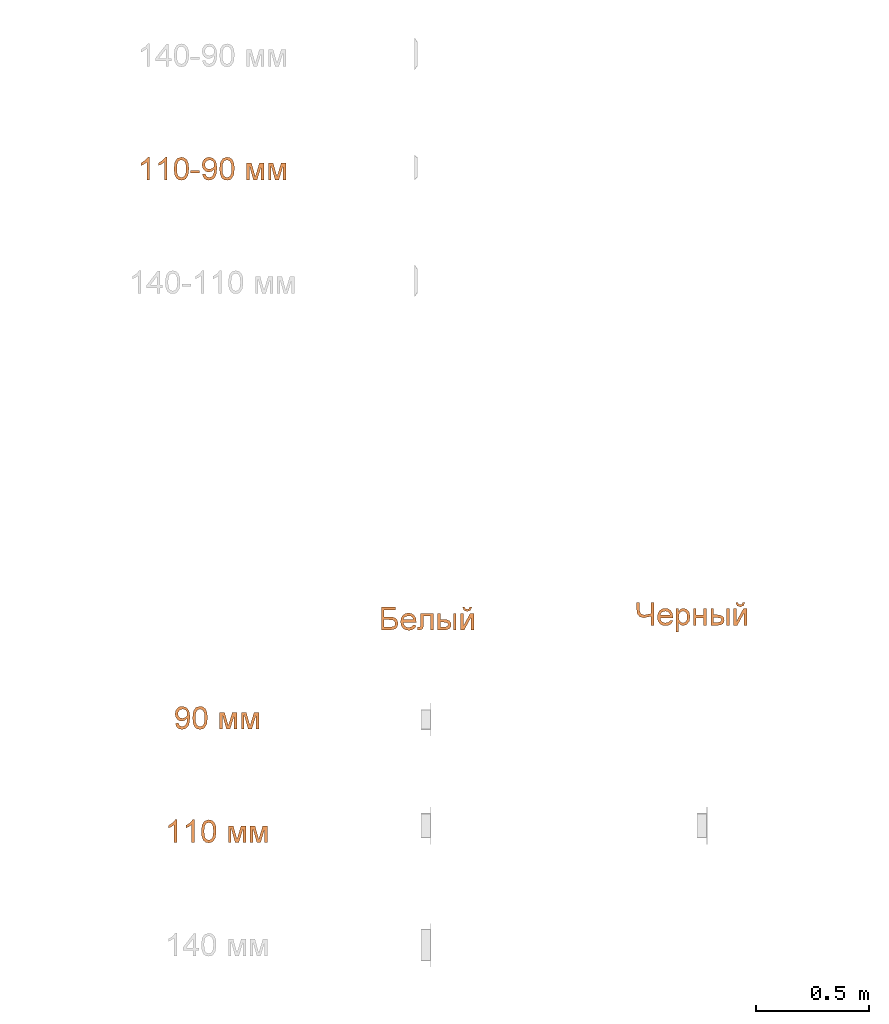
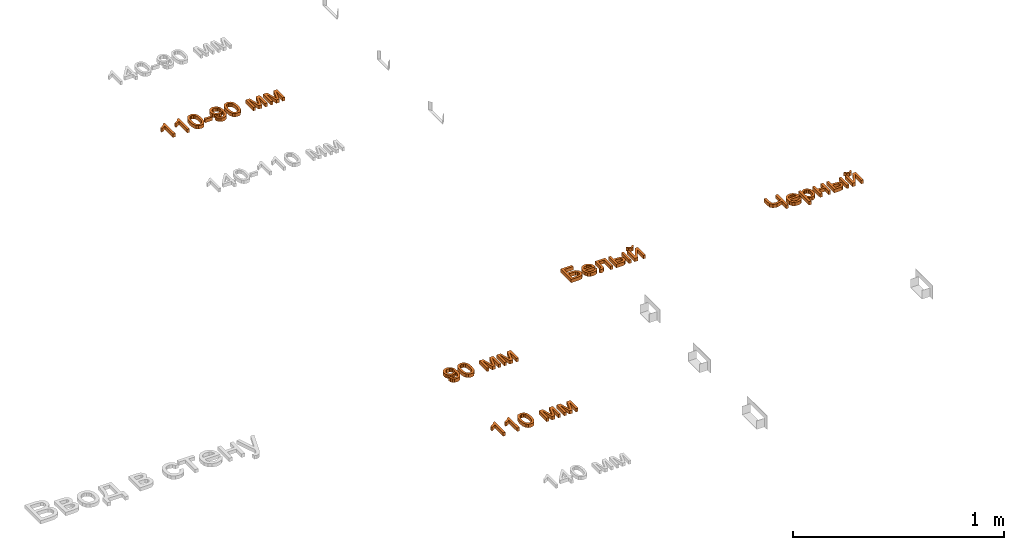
# One storey, part 34 of 87: 5 proxies.
"""IFC2X3 building model written with IfcOpenShell, lengths in millimetres."""

import ifcopenshell
import ifcopenshell.guid

model = None  # the IFC model being written
_history = None  # IfcOwnerHistory: only IFC2X3 demands one
_inside = {}  # id of a spatial element -> (the spatial element, [elements in it])
_under = {}  # id of a project, library or spatial element -> (it, [spatial elements below it])
_declared = {}  # id of a project -> (the project, [libraries it declares])
_typed = {}  # id of a type object -> (the type object, [elements of that type])
_made_of = {}  # id of a material, layer set ... -> (it, [elements and type objects made of it])


def new_model(schema):
    """Start an empty IFC model of exactly this schema.

    Asked for "IFC4X3", IfcOpenShell would pick the latest addendum, in which some entities
    have other attributes; the version numbers below select the first issue.
    IFC2X3 requires an IfcOwnerHistory on every rooted entity: one is made here for all.
    """
    global model, _history
    if schema == "IFC4X3":
        model = ifcopenshell.file(schema_version=(4, 3, 0, 0))
    else:
        model = ifcopenshell.file(schema=schema)
    _inside.clear()
    _under.clear()
    _declared.clear()
    _typed.clear()
    _made_of.clear()
    _history = None
    if model.schema == "IFC2X3":
        org = make("IfcOrganization", Name="unknown")
        user = make(
            "IfcPersonAndOrganization",
            ThePerson=make("IfcPerson", FamilyName="unknown"),
            TheOrganization=org,
        )
        app = make(
            "IfcApplication",
            ApplicationDeveloper=org,
            Version="unknown",
            ApplicationFullName="unknown",
            ApplicationIdentifier="unknown",
        )
        _history = make(
            "IfcOwnerHistory",
            OwningUser=user,
            OwningApplication=app,
            ChangeAction="ADDED",
            CreationDate=0,
        )
    return model


def make(cls, **values):
    """One entity of the class cls with the attributes given. An attribute that is None is left unset."""
    return model.create_entity(
        cls, **{name: value for name, value in values.items() if value is not None}
    )


def entity(cls, *values):
    """Any entity or typed value of the class cls, its attributes in the order of the schema. None: left unset."""
    e = model.create_entity(cls)
    for i, value in enumerate(values):
        if value is not None:
            e[i] = value
    return e


def rooted(cls, **values):
    """An entity with a GlobalId (a new one), such as an element, a storey or a relation."""
    return make(cls, GlobalId=ifcopenshell.guid.new(), OwnerHistory=_history, **values)


def si_unit(unit_type, name, prefix=None):
    """IfcSIUnit, for example si_unit("LENGTHUNIT", "METRE", prefix="MILLI")."""
    return make("IfcSIUnit", UnitType=unit_type, Prefix=prefix, Name=name)


def converted_unit(unit_type, name, factor, base, dimensions=None, offset=None):
    """IfcConversionBasedUnit, such as the inch: factor (a typed value) times the base unit."""
    return make(
        "IfcConversionBasedUnit"
        if offset is None
        else "IfcConversionBasedUnitWithOffset",
        ConversionOffset=offset,
        Dimensions=None
        if dimensions is None
        else entity("IfcDimensionalExponents", *dimensions),
        UnitType=unit_type,
        Name=name,
        ConversionFactor=make(
            "IfcMeasureWithUnit", ValueComponent=factor, UnitComponent=base
        ),
    )


def derived_unit(unit_type, elements):
    """IfcDerivedUnit: a product of units, each with its exponent."""
    return make(
        "IfcDerivedUnit",
        Elements=[
            make("IfcDerivedUnitElement", Unit=unit, Exponent=power)
            for unit, power in elements
        ],
        UnitType=unit_type,
    )


def assignment(units):
    """IfcUnitAssignment: the units of a project."""
    return None if units is None else make("IfcUnitAssignment", Units=units)


def point(xyz):
    """IfcCartesianPoint."""
    return None if xyz is None else make("IfcCartesianPoint", Coordinates=xyz)


def direction(xyz):
    """IfcDirection."""
    return None if xyz is None else make("IfcDirection", DirectionRatios=xyz)


def frame(location, z_axis=None, x_axis=None):
    """IfcAxis2Placement3D, a coordinate frame: its origin and axes. An axis left out is left unset."""
    return make(
        "IfcAxis2Placement3D",
        Location=point(location),
        Axis=direction(z_axis),
        RefDirection=direction(x_axis),
    )


def frame_2d(location, x_axis=None):
    """IfcAxis2Placement2D, a coordinate frame in the plane: its origin and x axis."""
    return make(
        "IfcAxis2Placement2D", Location=point(location), RefDirection=direction(x_axis)
    )


def origin():
    """The frame at (0, 0, 0) with its axes left unset."""
    return frame((0.0, 0.0, 0.0))


def place(relative_to, where):
    """IfcLocalPlacement: puts the frame where relative to a parent placement (None: the world)."""
    return make(
        "IfcLocalPlacement", PlacementRelTo=relative_to, RelativePlacement=where
    )


def context(
    kind, dimensions, precision=None, world=None, true_north=None, identifier=None
):
    """IfcGeometricRepresentationContext, for example the 3D "Model" context."""
    return make(
        "IfcGeometricRepresentationContext",
        ContextIdentifier=identifier,
        ContextType=kind,
        CoordinateSpaceDimension=dimensions,
        Precision=precision,
        WorldCoordinateSystem=world,
        TrueNorth=true_north,
    )


def subcontext(parent, identifier, kind, view, scale=None):
    """IfcGeometricRepresentationSubContext, for example "Body" below "Model"."""
    return make(
        "IfcGeometricRepresentationSubContext",
        ContextIdentifier=identifier,
        ContextType=kind,
        ParentContext=parent,
        TargetScale=scale,
        TargetView=view,
    )


def project(units=None, contexts=None):
    """IfcProject with its units and contexts."""
    return rooted(
        "IfcProject",
        Name="project",
        RepresentationContexts=contexts,
        UnitsInContext=assignment(units),
    )


def spatial(cls, under=None, at=None, **own):
    """A site, building, storey or space (cls), placed at a placement, below another one or the project."""
    s = rooted(cls, ObjectPlacement=at, **own)
    if under is not None:
        _under.setdefault(under.id(), (under, []))[1].append(s)
    return s


def polyline(points):
    """IfcPolyline through the points."""
    return make("IfcPolyline", Points=[point(p) for p in points])


def profile(cls, at=None, kind="AREA", **sizes):
    """A parametric profile (cls). Its sizes go by their IFC names, for example OverallWidth=200.0."""
    return make(cls, ProfileType=kind, Position=at, **sizes)


def rectangle(**sizes):
    """IfcRectangleProfileDef."""
    return profile("IfcRectangleProfileDef", **sizes)


def outline(outer, holes=None, kind="AREA"):
    """IfcArbitraryClosedProfileDef: a profile drawn as a closed curve; with holes, ...WithVoids."""
    if holes is None:
        return make("IfcArbitraryClosedProfileDef", ProfileType=kind, OuterCurve=outer)
    return make(
        "IfcArbitraryProfileDefWithVoids",
        ProfileType=kind,
        OuterCurve=outer,
        InnerCurves=holes,
    )


def extrude(swept, where, along, depth):
    """IfcExtrudedAreaSolid: the profile swept, set in the frame where, extruded along a direction by depth."""
    return make(
        "IfcExtrudedAreaSolid",
        SweptArea=swept,
        Position=where,
        ExtrudedDirection=direction(along),
        Depth=depth,
    )


def shape(context_of_items, identifier, shape_type, items):
    """IfcShapeRepresentation: the items that make up one representation, for example the "Body"."""
    return make(
        "IfcShapeRepresentation",
        ContextOfItems=context_of_items,
        RepresentationIdentifier=identifier,
        RepresentationType=shape_type,
        Items=items,
    )


def made_of(thing, what):
    """Note that an element or type object is made of a material, layer set ...; save() writes the relation."""
    if what is not None:
        _made_of.setdefault(what.id(), (what, []))[1].append(thing)
    return thing


def element(
    cls,
    number,
    at=None,
    inside=None,
    cuts=None,
    type_object=None,
    material=None,
    context=None,
    identifier="Body",
    shape_type=None,
    held_by="IfcProductDefinitionShape",
    body=None,
    shapes=None,
    **own,
):
    """One element of the class cls, such as IfcWall. Its Tag is "e" and its number.

    at: its placement. inside: the storey or other place that contains it. cuts: it is an
    opening in that element (IfcRelVoidsElement). A single representation is given by context,
    identifier, shape_type and body (its items); several are given by shapes. held_by: the class
    of the entity that holds the representations. save() writes the other relations.
    """
    e = rooted(cls, Tag="e%d" % number, ObjectPlacement=at, **own)
    if body is not None:
        shapes = [shape(context, identifier, shape_type, body)]
    if shapes is not None:
        e.Representation = make(held_by, Representations=shapes)
    if inside is not None:
        _inside.setdefault(inside.id(), (inside, []))[1].append(e)
    if cuts is not None:
        rooted(
            "IfcRelVoidsElement", RelatingBuildingElement=cuts, RelatedOpeningElement=e
        )
    if type_object is not None:
        _typed.setdefault(type_object.id(), (type_object, []))[1].append(e)
    return made_of(e, material)


def aggregate(whole, parts):
    """IfcRelAggregates: a whole, such as a stair, and the parts it consists of."""
    return rooted("IfcRelAggregates", RelatingObject=whole, RelatedObjects=parts)


def save(model, path):
    """Write the relations noted so far, then the file.

    IfcRelAggregates (storeys below a building ...), IfcRelContainedInSpatialStructure (elements
    in a storey), IfcRelDefinesByType, IfcRelAssociatesMaterial and IfcRelDeclares: one each for
    every whole, place, type object, material and project.
    """
    for whole, parts in _under.values():
        aggregate(whole, parts)
    for where, things in _inside.values():
        rooted(
            "IfcRelContainedInSpatialStructure",
            RelatedElements=things,
            RelatingStructure=where,
        )
    for kind, things in _typed.values():
        rooted("IfcRelDefinesByType", RelatedObjects=things, RelatingType=kind)
    for what, things in _made_of.values():
        rooted("IfcRelAssociatesMaterial", RelatedObjects=things, RelatingMaterial=what)
    for by, libraries in _declared.values():
        rooted("IfcRelDeclares", RelatingContext=by, RelatedDefinitions=libraries)
    model.write(path)


model = new_model("IFC2X3")

# Units and contexts
model_context = context("Model", 3, precision=0.01, world=origin(), true_north=direction((6.12303176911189e-17, 1.0)))
body_context = subcontext(model_context, "Body", "Model", "MODEL_VIEW")
ifc_project = project(units=[si_unit("LENGTHUNIT", "METRE", prefix="MILLI"), si_unit("AREAUNIT", "SQUARE_METRE"), si_unit("VOLUMEUNIT", "CUBIC_METRE"), converted_unit("PLANEANGLEUNIT", "DEGREE", entity("IfcRatioMeasure", 0.0174532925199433), si_unit("PLANEANGLEUNIT", "RADIAN"), dimensions=[0, 0, 0, 0, 0, 0, 0]), si_unit("MASSUNIT", "GRAM", prefix="KILO"), derived_unit("MASSDENSITYUNIT", [(si_unit("MASSUNIT", "GRAM", prefix="KILO"), 1), (si_unit("LENGTHUNIT", "METRE"), -3)]), si_unit("TIMEUNIT", "SECOND"), si_unit("FREQUENCYUNIT", "HERTZ"), si_unit("THERMODYNAMICTEMPERATUREUNIT", "DEGREE_CELSIUS"), derived_unit("THERMALTRANSMITTANCEUNIT", [(si_unit("MASSUNIT", "GRAM", prefix="KILO"), 1), (si_unit("THERMODYNAMICTEMPERATUREUNIT", "KELVIN"), -1), (si_unit("TIMEUNIT", "SECOND"), -3)]), derived_unit("VOLUMETRICFLOWRATEUNIT", [(si_unit("LENGTHUNIT", "METRE"), 3), (si_unit("TIMEUNIT", "SECOND"), -1)]), si_unit("ELECTRICCURRENTUNIT", "AMPERE"), si_unit("ELECTRICVOLTAGEUNIT", "VOLT"), si_unit("POWERUNIT", "WATT"), si_unit("FORCEUNIT", "NEWTON", prefix="KILO"), si_unit("ILLUMINANCEUNIT", "LUX"), si_unit("LUMINOUSFLUXUNIT", "LUMEN"), si_unit("LUMINOUSINTENSITYUNIT", "CANDELA"), derived_unit("USERDEFINED", [(si_unit("MASSUNIT", "GRAM", prefix="KILO"), -1), (si_unit("LENGTHUNIT", "METRE"), -2), (si_unit("TIMEUNIT", "SECOND"), 3), (si_unit("LUMINOUSFLUXUNIT", "LUMEN"), 1)]), derived_unit("LINEARVELOCITYUNIT", [(si_unit("LENGTHUNIT", "METRE"), 1), (si_unit("TIMEUNIT", "SECOND"), -1)]), si_unit("PRESSUREUNIT", "PASCAL"), derived_unit("USERDEFINED", [(si_unit("LENGTHUNIT", "METRE"), -2), (si_unit("MASSUNIT", "GRAM", prefix="KILO"), 1), (si_unit("TIMEUNIT", "SECOND"), -2)])], contexts=[model_context])

# Site, building, storey
site_placement = place(None, origin())
site = spatial("IfcSite", under=ifc_project, at=site_placement, Name="Default", CompositionType="ELEMENT")
building_placement = place(site_placement, origin())
building = spatial("IfcBuilding", under=site, at=building_placement, Name="Наименование здания", CompositionType="ELEMENT")
storey_placement = place(building_placement, origin())
storey = spatial("IfcBuildingStorey", under=building, at=storey_placement, Name="Этаж 01", CompositionType="ELEMENT", Elevation=0.0)

# Proxies
proxy_1_placement = place(storey_placement, origin())
element("IfcBuildingElementProxy", 1, at=proxy_1_placement, inside=storey, Name="Текст модели:100 мм Arial", ObjectType="Текст модели:100 мм Arial", context=body_context, shape_type="SweptSolid", body=[
    extrude(outline(polyline([(-63.8793021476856, -16.918484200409), (36.5770080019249, -16.918484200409), (36.5770080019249, -8.825080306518), (23.2106288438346, 2.34626961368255), (11.4629304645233, 20.7526321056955), (-0.407395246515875, 20.7526321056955), (5.93243780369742, 7.53340574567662), (14.4059864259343, -4.36144543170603), (-63.8793021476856, -4.36144543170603), (-63.8793021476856, -16.918484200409)])), frame((11773.3178787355, -29642.5695836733, 0.0), z_axis=(0.0, 0.0, 1.0), x_axis=(0.0, 1.0, 0.0)), (0.0, 0.0, 1.0), 20.0),
    extrude(outline(polyline([(-63.8793021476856, -16.918484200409), (36.5770080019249, -16.918484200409), (36.5770080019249, -8.825080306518), (23.2106288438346, 2.34626961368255), (11.4629304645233, 20.7526321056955), (-0.407395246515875, 20.7526321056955), (5.93243780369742, 7.53340574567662), (14.4059864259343, -4.36144543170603), (-63.8793021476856, -4.36144543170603), (-63.8793021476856, -16.918484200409)])), frame((11850.2297411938, -29642.5695836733, 0.0), z_axis=(0.0, 0.0, 1.0), x_axis=(0.0, 1.0, 0.0)), (0.0, 0.0, 1.0), 20.0),
    extrude(outline(polyline([(-7.02884310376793, -33.3490673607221), (17.5323805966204, -33.3490673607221), (35.1984171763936, -27.6137612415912), (43.343984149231, -18.4876517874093), (47.0516941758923, -5.75150665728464), (46.7162020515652, 4.48638208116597), (43.446577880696, 13.0955287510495), (27.9444305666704, 25.6659118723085), (-0.314338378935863, 32.2325535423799), (-24.0296505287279, 32.3678288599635), (-39.4143020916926, 28.026088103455), (-49.7293680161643, 18.9002174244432), (-54.4436715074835, 4.63998875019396), (-50.8676582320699, -14.1301059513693), (-35.4058547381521, -26.7333390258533), (-7.02884310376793, -33.3490673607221)]), holes=[polyline([(-5.77428774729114, -20.8548320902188), (-25.0157644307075, -17.3562860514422), (-36.7257089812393, -11.57179224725), (-41.0962588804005, -4.77599682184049), (-41.9669219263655, 3.21464792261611), (-39.2244253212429, 11.2791292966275), (-32.8654063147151, 17.2229259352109), (-20.9698370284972, 20.2947501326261), (-1.61768958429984, 19.7433141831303), (17.8514140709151, 16.270770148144), (28.7803640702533, 10.7141596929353), (33.5546988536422, 3.61815959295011), (34.5599568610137, -4.47255337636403), (31.9421230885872, -12.1923199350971), (25.8471825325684, -18.1754808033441), (14.025067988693, -21.4027476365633), (-5.77428774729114, -20.8548320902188)])]), frame((11930.8627300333, -29660.6257088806, 0.0), z_axis=(0.0, 0.0, 1.0), x_axis=(0.101851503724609, -0.994799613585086, 0.0)), (0.0, 0.0, 1.0), 20.0),
    extrude(rectangle(XDim=39.2407461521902, YDim=12.5570387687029, at=frame_2d((1.08357767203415e-12, 0.0), x_axis=(1.0, 0.0))), frame((11990.3641683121, -29670.3473993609, 0.0)), (0.0, 0.0, 1.0), 20.0),
    extrude(outline(polyline([(5.5829690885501, -31.7859506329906), (17.2387167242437, -31.7859506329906), (26.9216142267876, -28.1739915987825), (34.2072820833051, -21.2554963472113), (38.6713407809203, -11.3358876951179), (39.9245387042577, -0.903731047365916), (37.9450282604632, 8.92661895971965), (32.7793953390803, 17.8190246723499), (24.4742258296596, 25.4373484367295), (-3.9051707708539, 37.3659164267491), (-32.1440557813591, 40.5619140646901), (-49.7769073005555, 32.5319597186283), (-59.4683269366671, 16.6032994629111), (-60.4499889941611, 4.02951589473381), (-56.4016296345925, -7.5344436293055), (-47.8362588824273, -16.8026666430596), (-35.2668867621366, -22.4892406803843), (-21.9841856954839, -23.8222776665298), (-10.331096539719, -20.2832716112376), (-1.40106329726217, -12.8047998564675), (3.71247002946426, -2.31943974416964), (3.73902096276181, 11.928190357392), (-2.85997612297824, 24.0883984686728), (-0.471643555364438, 23.526023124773), (13.1334133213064, 18.0099957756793), (22.6158894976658, 11.2224941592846), (27.0079821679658, 2.91452909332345), (26.6924060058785, -7.52395807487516), (20.3410079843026, -16.8945474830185), (7.30988926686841, -19.2495752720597), (5.5829690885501, -31.7859506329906)]), holes=[polyline([(-21.7672208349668, 29.1433710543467), (-13.9803799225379, 25.5922442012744), (-8.91107638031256, 19.829137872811), (-7.47464573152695, 4.454151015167), (-10.9717321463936, -3.43916536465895), (-16.5473789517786, -8.73312215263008), (-23.5758136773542, -11.176140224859), (-31.4312638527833, -10.5166404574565), (-39.4119601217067, -6.85973803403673), (-44.9206699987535, -0.817312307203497), (-47.529759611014, 6.83624740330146), (-46.811595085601, 15.3265517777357), (-43.3781823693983, 22.7799280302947), (-37.7148363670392, 27.7965691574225), (-30.3387761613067, 30.0324064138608), (-21.7672208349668, 29.1433710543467)])]), frame((12051.807001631, -29667.7314518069, 0.0), z_axis=(0.0, 0.0, 1.0), x_axis=(0.258284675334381, -0.966068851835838, 0.0)), (0.0, 0.0, 1.0), 20.0),
    extrude(outline(polyline([(-7.02884310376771, -33.3490673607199), (17.5323805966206, -33.34906736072), (35.1984171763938, -27.613761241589), (43.3439841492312, -18.4876517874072), (47.0516941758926, -5.75150665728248), (46.7162020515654, 4.48638208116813), (43.4465778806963, 13.0955287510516), (27.9444305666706, 25.6659118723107), (-0.314338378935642, 32.232553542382), (-24.0296505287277, 32.3678288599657), (-39.4143020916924, 28.0260881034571), (-49.7293680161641, 18.9002174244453), (-54.4436715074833, 4.63998875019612), (-50.8676582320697, -14.1301059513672), (-35.4058547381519, -26.7333390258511), (-7.02884310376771, -33.3490673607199)]), holes=[polyline([(-5.77428774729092, -20.8548320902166), (-25.0157644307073, -17.35628605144), (-36.7257089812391, -11.5717922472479), (-41.0962588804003, -4.77599682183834), (-41.9669219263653, 3.21464792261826), (-39.2244253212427, 11.2791292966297), (-32.8654063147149, 17.2229259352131), (-20.9698370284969, 20.2947501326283), (-1.61768958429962, 19.7433141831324), (17.8514140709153, 16.2707701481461), (28.7803640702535, 10.7141596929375), (33.5546988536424, 3.61815959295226), (34.5599568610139, -4.47255337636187), (31.9421230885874, -12.1923199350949), (25.8471825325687, -18.1754808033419), (14.0250679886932, -21.4027476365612), (-5.77428774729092, -20.8548320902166)])]), frame((12131.7753503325, -29660.6257088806, 0.0), z_axis=(0.0, 0.0, 1.0), x_axis=(0.101851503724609, -0.994799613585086, 0.0)), (0.0, 0.0, 1.0), 20.0),
    extrude(outline(polyline([(-40.5839870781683, -38.4502715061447), (33.1886156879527, -38.4502715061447), (33.1886156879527, -25.893232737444), (-29.0570178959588, -25.893232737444), (33.1886156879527, -8.6273044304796), (33.1886156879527, 7.85380895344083), (-26.2120637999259, 25.9045521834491), (33.1886156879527, 25.9045521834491), (33.1886156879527, 38.4615909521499), (-40.5839870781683, 38.4615909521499), (-40.5839870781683, 17.7620973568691), (18.4733358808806, -0.190544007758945), (-40.5839870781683, -16.8433356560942), (-40.5839870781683, -38.4502715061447)])), frame((12255.6259525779, -29673.260270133, 0.0), z_axis=(0.0, 0.0, 1.0), x_axis=(0.0, -1.0, 0.0)), (0.0, 0.0, 1.0), 20.0),
    extrude(outline(polyline([(-40.5839870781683, -38.4502715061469), (33.1886156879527, -38.4502715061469), (33.1886156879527, -25.8932327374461), (-29.0570178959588, -25.8932327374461), (33.1886156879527, -8.62730443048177), (33.1886156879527, 7.85380895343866), (-26.2120637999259, 25.9045521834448), (33.1886156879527, 25.9045521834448), (33.1886156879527, 38.4615909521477), (-40.5839870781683, 38.4615909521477), (-40.5839870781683, 17.762097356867), (18.4733358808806, -0.19054400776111), (-40.5839870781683, -16.8433356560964), (-40.5839870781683, -38.4502715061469)])), frame((12351.3733731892, -29673.260270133, 0.0), z_axis=(0.0, 0.0, 1.0), x_axis=(0.0, -1.0, 0.0)), (0.0, 0.0, 1.0), 20.0),
])
proxy_2_placement = place(storey_placement, origin())
element("IfcBuildingElementProxy", 2, at=proxy_2_placement, inside=storey, Name="Текст модели:100 мм Arial", ObjectType="Текст модели:100 мм Arial", context=body_context, shape_type="SweptSolid", body=[
    extrude(outline(polyline([(5.58296908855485, -31.7859506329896), (17.2387167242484, -31.7859506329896), (26.9216142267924, -28.1739915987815), (34.2072820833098, -21.2554963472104), (38.6713407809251, -11.3358876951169), (39.9245387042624, -0.903731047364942), (37.9450282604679, 8.92661895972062), (32.779395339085, 17.8190246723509), (24.4742258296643, 25.4373484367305), (-3.90517077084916, 37.3659164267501), (-32.1440557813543, 40.5619140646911), (-49.7769073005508, 32.5319597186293), (-59.4683269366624, 16.603299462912), (-60.4499889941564, 4.02951589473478), (-56.4016296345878, -7.53444362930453), (-47.8362588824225, -16.8026666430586), (-35.2668867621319, -22.4892406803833), (-21.9841856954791, -23.8222776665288), (-10.3310965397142, -20.2832716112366), (-1.40106329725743, -12.8047998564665), (3.712470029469, -2.31943974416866), (3.73902096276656, 11.928190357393), (-2.8599761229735, 24.0883984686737), (-0.471643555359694, 23.526023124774), (13.1334133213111, 18.0099957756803), (22.6158894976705, 11.2224941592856), (27.0079821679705, 2.91452909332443), (26.6924060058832, -7.52395807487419), (20.3410079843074, -16.8945474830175), (7.30988926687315, -19.2495752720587), (5.58296908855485, -31.7859506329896)]), holes=[polyline([(-21.7672208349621, 29.1433710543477), (-13.9803799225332, 25.5922442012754), (-8.91107638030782, 19.829137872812), (-7.4746457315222, 4.45415101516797), (-10.9717321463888, -3.43916536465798), (-16.5473789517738, -8.73312215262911), (-23.5758136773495, -11.1761402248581), (-31.4312638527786, -10.5166404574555), (-39.411960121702, -6.85973803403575), (-44.9206699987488, -0.817312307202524), (-47.5297596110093, 6.83624740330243), (-46.8115950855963, 15.3265517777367), (-43.3781823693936, 22.7799280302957), (-37.7148363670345, 27.7965691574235), (-30.338776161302, 30.0324064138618), (-21.7672208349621, 29.1433710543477)])]), frame((11932.8947602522, -32087.7314518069, 0.0), z_axis=(0.0, 0.0, 1.0), x_axis=(0.258284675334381, -0.966068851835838, 0.0)), (0.0, 0.0, 1.0), 20.0),
    extrude(outline(polyline([(-7.02884310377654, -33.3490673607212), (17.5323805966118, -33.3490673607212), (35.198417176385, -27.6137612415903), (43.3439841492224, -18.4876517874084), (47.0516941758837, -5.75150665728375), (46.7162020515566, 4.48638208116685), (43.4465778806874, 13.0955287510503), (27.9444305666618, 25.6659118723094), (-0.314338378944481, 32.2325535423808), (-24.0296505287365, 32.3678288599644), (-39.4143020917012, 28.0260881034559), (-49.7293680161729, 18.900217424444), (-54.4436715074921, 4.63998875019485), (-50.8676582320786, -14.1301059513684), (-35.4058547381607, -26.7333390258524), (-7.02884310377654, -33.3490673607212)]), holes=[polyline([(-5.77428774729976, -20.8548320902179), (-25.0157644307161, -17.3562860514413), (-36.7257089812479, -11.5717922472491), (-41.0962588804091, -4.77599682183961), (-41.9669219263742, 3.21464792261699), (-39.2244253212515, 11.2791292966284), (-32.8654063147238, 17.2229259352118), (-20.9698370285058, 20.294750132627), (-1.61768958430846, 19.7433141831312), (17.8514140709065, 16.2707701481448), (28.7803640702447, 10.7141596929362), (33.5546988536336, 3.61815959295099), (34.5599568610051, -4.47255337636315), (31.9421230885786, -12.1923199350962), (25.8471825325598, -18.1754808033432), (14.0250679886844, -21.4027476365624), (-5.77428774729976, -20.8548320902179)])]), frame((12012.8631089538, -32080.6257088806, 0.0), z_axis=(0.0, 0.0, 1.0), x_axis=(0.101851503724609, -0.994799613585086, 0.0)), (0.0, 0.0, 1.0), 20.0),
    extrude(outline(polyline([(-40.583987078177, -38.4502715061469), (33.1886156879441, -38.4502715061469), (33.1886156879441, -25.8932327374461), (-29.0570178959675, -25.8932327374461), (33.1886156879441, -8.62730443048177), (33.1886156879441, 7.85380895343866), (-26.2120637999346, 25.904552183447), (33.1886156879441, 25.904552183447), (33.1886156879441, 38.4615909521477), (-40.583987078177, 38.4615909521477), (-40.583987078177, 17.762097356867), (18.4733358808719, -0.19054400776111), (-40.583987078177, -16.8433356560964), (-40.583987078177, -38.4502715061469)])), frame((12136.7137111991, -32093.260270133, 0.0), z_axis=(0.0, 0.0, 1.0), x_axis=(0.0, -1.0, 0.0)), (0.0, 0.0, 1.0), 20.0),
    extrude(outline(polyline([(-40.583987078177, -38.4502715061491), (33.1886156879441, -38.4502715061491), (33.1886156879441, -25.8932327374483), (-29.0570178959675, -25.8932327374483), (33.1886156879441, -8.62730443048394), (33.1886156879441, 7.8538089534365), (-26.2120637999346, 25.9045521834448), (33.1886156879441, 25.9045521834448), (33.1886156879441, 38.4615909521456), (-40.583987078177, 38.4615909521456), (-40.583987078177, 17.7620973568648), (18.4733358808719, -0.190544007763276), (-40.583987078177, -16.8433356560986), (-40.583987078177, -38.4502715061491)])), frame((12232.4611318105, -32093.260270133, 0.0), z_axis=(0.0, 0.0, 1.0), x_axis=(0.0, -1.0, 0.0)), (0.0, 0.0, 1.0), 20.0),
])
proxy_3_placement = place(storey_placement, origin())
element("IfcBuildingElementProxy", 3, at=proxy_3_placement, inside=storey, Name="Текст модели:100 мм Arial", ObjectType="Текст модели:100 мм Arial", context=body_context, shape_type="SweptSolid", body=[
    extrude(outline(polyline([(-63.8793021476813, -16.9184842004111), (36.5770080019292, -16.9184842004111), (36.5770080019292, -8.82508030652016), (23.2106288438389, 2.34626961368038), (11.4629304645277, 20.7526321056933), (-0.407395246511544, 20.7526321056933), (5.93243780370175, 7.53340574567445), (14.4059864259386, -4.3614454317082), (-63.8793021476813, -4.3614454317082), (-63.8793021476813, -16.9184842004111)])), frame((11893.7741888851, -32562.5695836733, 0.0), z_axis=(0.0, 0.0, 1.0), x_axis=(0.0, 1.0, 0.0)), (0.0, 0.0, 1.0), 20.0),
    extrude(outline(polyline([(-63.8793021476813, -16.918484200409), (36.5770080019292, -16.918484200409), (36.5770080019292, -8.825080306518), (23.2106288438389, 2.34626961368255), (11.4629304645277, 20.7526321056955), (-0.407395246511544, 20.7526321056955), (5.93243780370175, 7.53340574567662), (14.4059864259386, -4.36144543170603), (-63.8793021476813, -4.36144543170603), (-63.8793021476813, -16.918484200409)])), frame((11970.6860513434, -32562.5695836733, 0.0), z_axis=(0.0, 0.0, 1.0), x_axis=(0.0, 1.0, 0.0)), (0.0, 0.0, 1.0), 20.0),
    extrude(outline(polyline([(-7.02884310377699, -33.3490673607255), (17.5323805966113, -33.3490673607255), (35.1984171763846, -27.6137612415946), (43.3439841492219, -18.4876517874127), (47.0516941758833, -5.75150665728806), (46.7162020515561, 4.48638208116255), (43.446577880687, 13.095528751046), (27.9444305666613, 25.6659118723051), (-0.314338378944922, 32.2325535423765), (-24.0296505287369, 32.3678288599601), (-39.4143020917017, 28.0260881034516), (-49.7293680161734, 18.9002174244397), (-54.4436715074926, 4.63998875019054), (-50.867658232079, -14.1301059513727), (-35.4058547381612, -26.7333390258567), (-7.02884310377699, -33.3490673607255)]), holes=[polyline([(-5.7742877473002, -20.8548320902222), (-25.0157644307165, -17.3562860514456), (-36.7257089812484, -11.5717922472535), (-41.0962588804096, -4.77599682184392), (-41.9669219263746, 3.21464792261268), (-39.224425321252, 11.2791292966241), (-32.8654063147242, 17.2229259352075), (-20.9698370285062, 20.2947501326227), (-1.6176895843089, 19.7433141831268), (17.851414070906, 16.2707701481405), (28.7803640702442, 10.7141596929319), (33.5546988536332, 3.61815959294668), (34.5599568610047, -4.47255337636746), (31.9421230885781, -12.1923199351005), (25.8471825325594, -18.1754808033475), (14.0250679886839, -21.4027476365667), (-5.7742877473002, -20.8548320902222)])]), frame((12051.3190401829, -32580.6257088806, 0.0), z_axis=(0.0, 0.0, 1.0), x_axis=(0.101851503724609, -0.994799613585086, 0.0)), (0.0, 0.0, 1.0), 20.0),
    extrude(outline(polyline([(-40.5839870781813, -38.4502715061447), (33.1886156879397, -38.4502715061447), (33.1886156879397, -25.893232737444), (-29.0570178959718, -25.893232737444), (33.1886156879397, -8.6273044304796), (33.1886156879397, 7.85380895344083), (-26.2120637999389, 25.9045521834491), (33.1886156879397, 25.9045521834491), (33.1886156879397, 38.4615909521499), (-40.5839870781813, 38.4615909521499), (-40.5839870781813, 17.7620973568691), (18.4733358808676, -0.190544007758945), (-40.5839870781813, -16.8433356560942), (-40.5839870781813, -38.4502715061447)])), frame((12175.1696424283, -32593.260270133, 0.0), z_axis=(0.0, 0.0, 1.0), x_axis=(0.0, -1.0, 0.0)), (0.0, 0.0, 1.0), 20.0),
    extrude(outline(polyline([(-40.5839870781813, -38.4502715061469), (33.1886156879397, -38.4502715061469), (33.1886156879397, -25.8932327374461), (-29.0570178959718, -25.8932327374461), (33.1886156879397, -8.62730443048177), (33.1886156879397, 7.85380895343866), (-26.2120637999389, 25.904552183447), (33.1886156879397, 25.904552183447), (33.1886156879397, 38.4615909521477), (-40.5839870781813, 38.4615909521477), (-40.5839870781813, 17.762097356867), (18.4733358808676, -0.19054400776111), (-40.5839870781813, -16.8433356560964), (-40.5839870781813, -38.4502715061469)])), frame((12270.9170630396, -32593.260270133, 0.0), z_axis=(0.0, 0.0, 1.0), x_axis=(0.0, -1.0, 0.0)), (0.0, 0.0, 1.0), 20.0),
])
proxy_4_placement = place(storey_placement, origin())
element("IfcBuildingElementProxy", 4, at=proxy_4_placement, inside=storey, Name="Текст модели:100 мм Arial", ObjectType="Текст модели:100 мм Arial", context=body_context, shape_type="SweptSolid", body=[
    extrude(outline(polyline([(-50.9950475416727, -42.7620371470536), (49.4612626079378, -42.7620371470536), (49.4612626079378, -4.42873324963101), (45.2428823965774, 17.8649156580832), (34.3658380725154, 27.7118903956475), (20.0552284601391, 31.0105656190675), (3.57411507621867, 26.3752524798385), (-6.06439319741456, 14.0389429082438), (-8.61504169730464, -6.68507615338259), (-8.61504169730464, -30.2049983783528), (-38.4380087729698, -30.2049983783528), (-38.4380087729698, 20.0231566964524), (-50.9950475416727, 20.0231566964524), (-50.9950475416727, -42.7620371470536)]), holes=[polyline([(36.9042238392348, -30.2049983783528), (3.94199707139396, -30.2049983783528), (3.94199707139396, -12.2523570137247), (5.24184678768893, 6.66904027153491), (10.4902965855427, 15.3387926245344), (20.3250085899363, 18.4535268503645), (27.5784152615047, 17.0923634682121), (32.7594200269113, 13.0088733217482), (36.9042238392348, -3.30056179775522), (36.9042238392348, -30.2049983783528)])]), frame((12853.8285451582, -31640.5776271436, 0.0), z_axis=(0.0, 0.0, 1.0), x_axis=(0.0, -1.0, 0.0)), (0.0, 0.0, 1.0), 20.0),
    extrude(outline(polyline([(-8.10128238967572, -20.3751729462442), (-15.5352214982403, -30.3140016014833), (-5.784003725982, -33.5775071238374), (4.12185089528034, -33.3132173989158), (13.8776168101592, -29.4480778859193), (23.1785684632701, -21.9090340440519), (31.6380426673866, -9.59237957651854), (34.1620486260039, 3.74135328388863), (30.6040508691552, 17.2442201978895), (20.8175139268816, 30.0682768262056), (7.27698270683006, 39.7846728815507), (-6.66179525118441, 43.1117813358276), (-19.9642596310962, 40.42212349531), (-31.5958501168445, 32.0882206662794), (-39.2435519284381, 20.5090048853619), (-41.3106827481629, 7.34319797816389), (-37.437370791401, -6.34962495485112), (-27.2637442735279, -19.5098888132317), (-24.7804584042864, -21.8106804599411), (14.4643272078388, 18.7422646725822), (19.7071986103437, 10.6437992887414), (21.1614672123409, 2.2100505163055), (19.1472085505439, -5.98136753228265), (13.9844981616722, -13.3528407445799), (3.5368460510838, -20.3751729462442), (-8.10128238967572, -20.3751729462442)]), holes=[polyline([(5.44081225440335, 27.4746984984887), (-25.1227061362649, -4.10760383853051), (-29.8038819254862, 7.4190951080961), (-27.8851342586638, 15.7498710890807), (-22.5382240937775, 23.3910349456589), (-8.40970331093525, 31.2368652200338), (-1.08072680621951, 30.9147288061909), (5.44081225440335, 27.4746984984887)])]), frame((12931.9105930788, -31659.7163389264, 0.0), z_axis=(0.0, 0.0, -1.0), x_axis=(-0.695421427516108, -0.71860214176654, 0.0)), (0.0, 0.0, -1.0), 20.0),
    extrude(outline(polyline([(-49.3689973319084, 12.5447760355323), (-49.3689973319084, -43.9618984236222), (24.3300290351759, -43.9618984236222), (24.3300290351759, -31.4048596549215), (-36.8119585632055, -31.4048596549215), (-36.8119585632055, -0.0122627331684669), (-1.6179143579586, -0.0122627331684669), (14.6179443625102, 0.833865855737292), (21.4728122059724, 5.4814417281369), (24.4036054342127, 16.468850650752), (23.7659433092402, 26.6714446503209), (11.8465666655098, 26.6714446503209), (11.8465666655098, 21.0551128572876), (11.0740144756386, 15.3774673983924), (8.62146784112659, 13.1088617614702), (-2.32915288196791, 12.5447760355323), (-49.3689973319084, 12.5447760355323)])), frame((12996.2705671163, -31665.6352843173, 0.0), z_axis=(0.0, 0.0, -1.0), x_axis=(0.0, -1.0, 0.0)), (0.0, 0.0, -1.0), 20.0),
    extrude(outline(polyline([(-42.3988715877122, -34.5139341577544), (31.3737311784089, -34.5139341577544), (31.3737311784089, -3.73447389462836), (29.653882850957, 9.31613988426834), (24.4943378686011, 18.2526066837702), (16.9129030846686, 23.4121516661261), (7.92738535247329, 25.1319999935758), (-1.9410491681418, 23.081057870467), (-9.42438208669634, 16.928231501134), (-14.1424686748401, 6.98622058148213), (-15.7151642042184, -6.43227519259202), (-15.7151642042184, -21.9568953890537), (-42.3988715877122, -21.9568953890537), (-42.3988715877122, -34.5139341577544)]), holes=[polyline([(18.816692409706, -21.9568953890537), (-3.15812543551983, -21.9568953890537), (-3.15812543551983, -7.41329384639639), (0.226388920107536, 8.88387853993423), (7.95191081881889, 12.5749612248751), (16.1802047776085, 7.5962915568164), (18.816692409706, -9.05650009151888), (18.816692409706, -21.9568953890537)])]), frame((13093.5819578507, -31658.6651585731, 0.0), z_axis=(0.0, 0.0, 1.0), x_axis=(0.0, -1.0, 0.0)), (0.0, 0.0, 1.0), 20.0),
    extrude(outline(polyline([(-11.1429830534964, -6.65049913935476), (-15.3141401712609, -15.0941956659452), (-0.0922190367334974, -15.8161107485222), (10.2631635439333, -5.84547547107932), (12.4162171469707, 9.4217244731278), (2.76087400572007, 21.4951559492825), (-1.41028311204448, 13.0514594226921), (3.36929976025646, 6.75127419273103), (2.31913688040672, -0.66283387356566), (-3.16906596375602, -6.65049913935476), (-11.1429830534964, -6.65049913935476)])), frame((13189.4368188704, -31596.6275198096, 0.0), z_axis=(0.0, 0.0, -1.0), x_axis=(-0.442902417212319, -0.896569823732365, 0.0)), (0.0, 0.0, -1.0), 20.0),
    extrude(outline(polyline([(-36.9206370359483, -29.8425874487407), (36.8519657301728, -29.8425874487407), (36.8519657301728, -13.4105249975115), (-19.0660975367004, 17.2463079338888), (36.8519657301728, 17.2463079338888), (36.8519657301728, 29.8033467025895), (-36.9206370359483, 29.8033467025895), (-36.9206370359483, 13.5674879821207), (19.340782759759, -17.28554868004), (-36.9206370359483, -17.28554868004), (-36.9206370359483, -29.8425874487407)])), frame((13189.3669212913, -31653.1869240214, 0.0), z_axis=(0.0, 0.0, 1.0), x_axis=(0.0, -1.0, 0.0)), (0.0, 0.0, 1.0), 20.0),
    extrude(rectangle(XDim=73.7726027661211, YDim=12.5570387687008, at=frame_2d((-2.16715534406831e-12, 1.08268949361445e-12), x_axis=(1.0, 0.0))), frame((13134.4102563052, -31653.1525883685, 0.0), z_axis=(0.0, 0.0, 1.0), x_axis=(0.0, -1.0, 0.0)), (0.0, 0.0, 1.0), 20.0),
])
proxy_5_placement = place(storey_placement, origin())
element("IfcBuildingElementProxy", 5, at=proxy_5_placement, inside=storey, Name="Текст модели:100 мм Arial", ObjectType="Текст модели:100 мм Arial", context=body_context, shape_type="SweptSolid", body=[
    extrude(outline(polyline([(-57.0521744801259, -41.5683661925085), (43.4041356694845, -41.5683661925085), (43.4041356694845, -29.0113274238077), (-5.30344049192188, -29.0113274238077), (-11.5329089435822, 0.689012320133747), (-6.37029827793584, 15.1835629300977), (1.59741260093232, 19.7085114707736), (15.1753239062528, 21.2168276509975), (43.4041356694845, 21.2168276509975), (43.4041356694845, 33.7738664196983), (13.483066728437, 33.7738664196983), (-6.51745107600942, 31.0883278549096), (-19.1235407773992, 20.4442754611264), (-24.0899477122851, 2.0869639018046), (-16.8304096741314, -29.0113274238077), (-57.0521744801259, -29.0113274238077), (-57.0521744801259, -41.5683661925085)])), frame((13970.0647556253, -31612.4886663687, 0.0), z_axis=(0.0, 0.0, 1.0), x_axis=(0.0, 1.0, 0.0)), (0.0, 0.0, 1.0), 20.0),
    extrude(outline(polyline([(-8.10128238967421, -20.3751729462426), (-15.5352214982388, -30.3140016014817), (-5.78400372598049, -33.5775071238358), (4.12185089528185, -33.3132173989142), (13.8776168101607, -29.4480778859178), (23.1785684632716, -21.9090340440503), (31.6380426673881, -9.59237957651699), (34.1620486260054, 3.74135328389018), (30.6040508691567, 17.2442201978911), (20.8175139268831, 30.0682768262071), (7.27698270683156, 39.7846728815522), (-6.6617952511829, 43.1117813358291), (-19.9642596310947, 40.4221234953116), (-31.595850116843, 32.088220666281), (-39.2435519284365, 20.5090048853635), (-41.3106827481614, 7.34319797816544), (-37.4373707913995, -6.34962495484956), (-27.2637442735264, -19.5098888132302), (-24.7804584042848, -21.8106804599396), (14.4643272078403, 18.7422646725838), (19.7071986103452, 10.643799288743), (21.1614672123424, 2.21005051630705), (19.1472085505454, -5.98136753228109), (13.9844981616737, -13.3528407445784), (3.53684605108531, -20.3751729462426), (-8.10128238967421, -20.3751729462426)]), holes=[polyline([(5.44081225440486, 27.4746984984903), (-25.1227061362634, -4.10760383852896), (-29.8038819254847, 7.41909510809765), (-27.8851342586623, 15.7498710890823), (-22.538224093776, 23.3910349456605), (-8.40970331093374, 31.2368652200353), (-1.08072680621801, 30.9147288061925), (5.44081225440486, 27.4746984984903)])]), frame((14063.4134936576, -31639.2182900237, 0.0), z_axis=(0.0, 0.0, -1.0), x_axis=(-0.695421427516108, -0.71860214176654, 0.0)), (0.0, 0.0, -1.0), 20.0),
    extrude(outline(polyline([(-28.8983569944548, -61.2335493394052), (-16.3413182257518, -61.2335493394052), (-16.3413182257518, -23.1700255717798), (-8.38280439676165, -31.3247431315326), (2.54329085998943, -34.5498419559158), (18.4235303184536, -29.7305878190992), (29.9259740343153, -15.8736993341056), (33.8868368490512, 4.4701749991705), (30.3796951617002, 23.8207679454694), (19.9808974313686, 37.5059781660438), (4.0638697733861, 42.362020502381), (-7.65930313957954, 38.8916670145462), (-16.3413182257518, 28.4806065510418), (-16.3413182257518, 40.7923906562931), (-28.8983569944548, 40.7923906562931), (-28.8983569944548, -61.2335493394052)]), holes=[polyline([(-16.3413182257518, 3.31747808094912), (-14.8912500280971, 14.7064915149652), (-10.541045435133, 23.0236902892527), (-4.30851130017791, 28.1096588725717), (2.78854552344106, 29.8049817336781), (9.85801119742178, 28.2108264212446), (15.8606190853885, 23.4283604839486), (19.9625033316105, 15.4453211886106), (21.3297980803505, 4.24944580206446), (19.9287808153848, -7.43080754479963), (15.7257290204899, -15.5916564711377), (9.56063991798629, -20.3925165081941), (2.2735107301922, -21.9928031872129), (-4.8971224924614, -20.4476988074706), (-10.9089274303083, -15.8123856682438), (-14.983220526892, -7.93971097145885), (-16.3413182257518, 3.31747808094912)])]), frame((14137.8485292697, -31636.560628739, 0.0)), (0.0, 0.0, 1.0), 20.0),
    extrude(outline(polyline([(-36.1014864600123, -29.0381521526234), (37.6711163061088, -29.0381521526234), (37.6711163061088, -16.4811133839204), (4.70888953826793, -16.4811133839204), (4.70888953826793, 16.4811133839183), (37.6711163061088, 16.4811133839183), (37.6711163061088, 29.0381521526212), (-36.1014864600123, 29.0381521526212), (-36.1014864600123, 16.4811133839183), (-7.848149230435, 16.4811133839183), (-7.848149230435, -16.4811133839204), (-36.1014864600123, -16.4811133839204), (-36.1014864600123, -29.0381521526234)])), frame((14214.9001868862, -31631.8697245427, 0.0), z_axis=(0.0, 0.0, 1.0), x_axis=(0.0, -1.0, 0.0)), (0.0, 0.0, 1.0), 20.0),
    extrude(outline(polyline([(-42.3988715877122, -34.5139341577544), (31.3737311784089, -34.5139341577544), (31.3737311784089, -3.73447389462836), (29.653882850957, 9.31613988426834), (24.4943378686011, 18.2526066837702), (16.9129030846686, 23.4121516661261), (7.92738535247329, 25.131999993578), (-1.9410491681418, 23.081057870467), (-9.42438208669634, 16.928231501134), (-14.1424686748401, 6.98622058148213), (-15.7151642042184, -6.43227519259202), (-15.7151642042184, -21.9568953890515), (-42.3988715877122, -21.9568953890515), (-42.3988715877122, -34.5139341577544)]), holes=[polyline([(18.816692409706, -21.9568953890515), (-3.15812543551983, -21.9568953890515), (-3.15812543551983, -7.41329384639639), (0.226388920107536, 8.8838785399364), (7.95191081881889, 12.5749612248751), (16.1802047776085, 7.5962915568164), (18.816692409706, -9.05650009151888), (18.816692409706, -21.9568953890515)])]), frame((14297.2878313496, -31638.1671096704, 0.0), z_axis=(0.0, 0.0, 1.0), x_axis=(0.0, -1.0, 0.0)), (0.0, 0.0, 1.0), 20.0),
    extrude(outline(polyline([(-11.1429830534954, -6.65049913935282), (-15.3141401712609, -15.0941956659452), (-0.0922190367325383, -15.8161107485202), (10.2631635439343, -5.84547547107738), (12.4162171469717, 9.42172447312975), (2.76087400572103, 21.4951559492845), (-1.41028311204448, 13.0514594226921), (3.36929976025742, 6.75127419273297), (2.31913688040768, -0.662833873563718), (-3.16906596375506, -6.65049913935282), (-11.1429830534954, -6.65049913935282)])), frame((14393.1426923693, -31576.1294709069, 0.0), z_axis=(0.0, 0.0, -1.0), x_axis=(-0.442902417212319, -0.896569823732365, 0.0)), (0.0, 0.0, -1.0), 20.0),
    extrude(outline(polyline([(-36.9206370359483, -29.8425874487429), (36.8519657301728, -29.8425874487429), (36.8519657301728, -13.4105249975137), (-19.0660975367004, 17.2463079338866), (36.8519657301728, 17.2463079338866), (36.8519657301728, 29.8033467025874), (-36.9206370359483, 29.8033467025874), (-36.9206370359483, 13.5674879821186), (19.340782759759, -17.2855486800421), (-36.9206370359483, -17.2855486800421), (-36.9206370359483, -29.8425874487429)])), frame((14393.0727947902, -31632.6888751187, 0.0), z_axis=(0.0, 0.0, 1.0), x_axis=(0.0, -1.0, 0.0)), (0.0, 0.0, 1.0), 20.0),
    extrude(rectangle(XDim=73.7726027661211, YDim=12.5570387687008, at=frame_2d((-2.16715534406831e-12, 1.08268949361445e-12), x_axis=(1.0, 0.0))), frame((14338.1161298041, -31632.6545394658, 0.0), z_axis=(0.0, 0.0, 1.0), x_axis=(0.0, -1.0, 0.0)), (0.0, 0.0, 1.0), 20.0),
])

save(model, "model.ifc")
